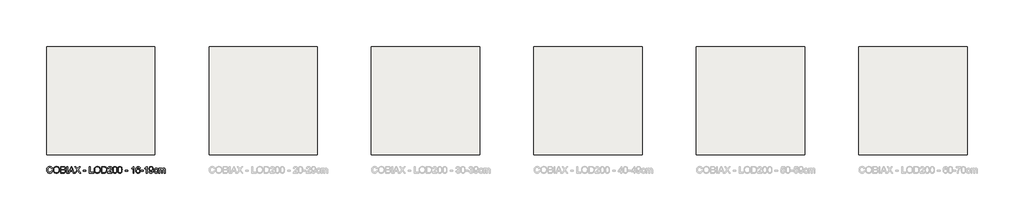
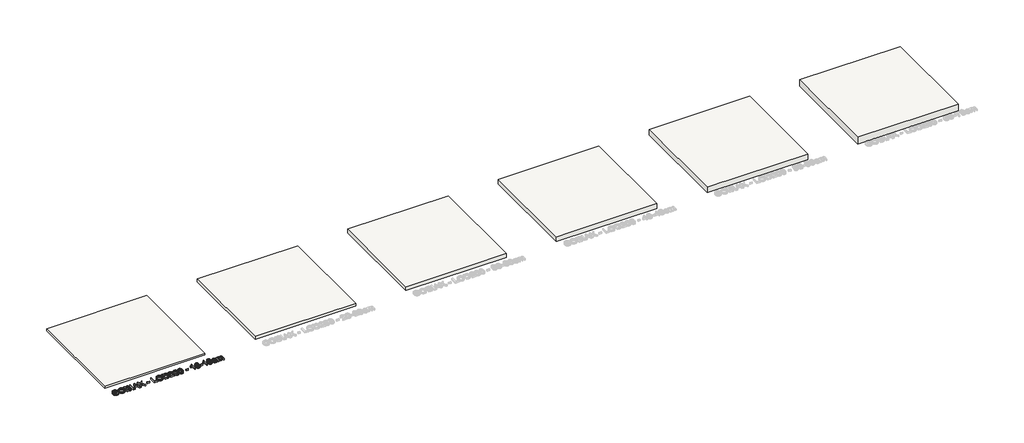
# One storey, part 1 of 6: 6 slabs, 1 proxy.
"""IFC4 building model written with IfcOpenShell, lengths in millimetres."""

from ifc_helpers import new_model, si_unit, frame, origin, origin_with_axes, place, context, project, spatial, polyline, outline, extrude, element, save

model = new_model("IFC4")

# Units and contexts
model_context = context("Model", 3, world=origin())
ifc_project = project(units=[si_unit("LENGTHUNIT", "METRE", prefix="MILLI")], contexts=[model_context])

# Site, building, storey
site = spatial("IfcSite", under=ifc_project)
building = spatial("IfcBuilding", under=site)
storey = spatial("IfcBuildingStorey", under=building, Name="COBIAX Slabs", Elevation=0.0)

# Proxy
placement = place(None, origin())
element("IfcBuildingElementProxy", 1, Name="600mm Arial", ObjectType="600mm Arial", at=placement, inside=storey, context=model_context, shape_type="SweptSolid", body=[
    extrude(outline(polyline([(-20201.7846047, -6620.9127725), (-20126.4423721, -6640.3369419), (-20141.35079, -6687.1913125), (-20161.2072206, -6728.13198), (-20186.0116642, -6763.1589445), (-20215.7641205, -6792.2722059), (-20249.7932051, -6815.1590645), (-20287.4275332, -6831.5068207), (-20328.6671048, -6841.3154744), (-20373.5119201, -6844.5850256), (-20419.4557827, -6842.1110192), (-20460.902288, -6834.6889999), (-20497.8514359, -6822.3189678), (-20530.3032264, -6805.0009229), (-20558.7037164, -6782.9923826), (-20583.4989629, -6756.5508642), (-20604.6889658, -6725.6763677), (-20622.2737252, -6690.3688932), (-20636.0830956, -6652.155151), (-20645.9469316, -6612.5618512), (-20651.8652332, -6571.588994), (-20653.8380004, -6529.2365793), (-20651.6077158, -6483.7939559), (-20644.916862, -6441.3495707), (-20633.765439, -6401.9034238), (-20618.1534469, -6365.4555151), (-20598.4303734, -6332.6082514), (-20574.9457065, -6303.9640396), (-20547.6994462, -6279.5228795), (-20516.6915926, -6259.2847713), (-20482.9752077, -6243.4152617), (-20447.6033539, -6232.0798977), (-20410.5760311, -6225.2786793), (-20371.8932393, -6223.0116065), (-20328.8004621, -6225.9454655), (-20289.2853373, -6234.7470422), (-20253.3478649, -6249.4163368), (-20220.9880449, -6269.9533491), (-20192.7393062, -6295.8154534), (-20169.1350776, -6326.4600236), (-20150.1753593, -6361.8870597), (-20135.8601512, -6402.0965618), (-20211.2023838, -6420.0492032), (-20223.0665781, -6390.420907), (-20237.3220054, -6365.1060272), (-20253.9686657, -6344.1045638), (-20273.006559, -6327.4165168), (-20294.5460498, -6314.7015953), (-20318.6975028, -6305.6195086), (-20345.4609179, -6300.1702565), (-20374.8362952, -6298.3538392), (-20408.6354535, -6300.3679931), (-20439.5467382, -6306.4104549), (-20467.5701492, -6316.4812245), (-20492.7056865, -6330.5803019), (-20514.6360519, -6348.0730908), (-20533.0439473, -6368.3249946), (-20547.9293725, -6391.3360134), (-20559.2923276, -6417.1061472), (-20573.6949077, -6472.2516583), (-20578.4957678, -6529.0894265), (-20572.8119909, -6598.6927), (-20565.7072699, -6629.9626696), (-20555.7606605, -6658.8781944), (-20542.8112142, -6684.8644589), (-20526.6979829, -6707.3466473), (-20507.4209663, -6726.3247597), (-20484.9801646, -6741.7987961), (-20460.4654281, -6753.8055448), (-20434.9666074, -6762.3817938), (-20408.4837022, -6767.5275432), (-20381.0167128, -6769.242793), (-20348.2614196, -6766.9067423), (-20318.1272857, -6759.8985903), (-20290.614311, -6748.218337), (-20265.7224955, -6731.8659823), (-20244.0404504, -6710.9151027), (-20226.1567869, -6685.4392745), (-20212.071505, -6655.4384978), (-20201.7846047, -6620.9127725)])), origin_with_axes(), (0.0, 0.0, 1.0), 150.0),
    extrude(outline(polyline([(-20051.1001395, -6541.7445672), (-20046.0785503, -6471.0468447), (-20031.0137825, -6408.4609203), (-20005.9058364, -6353.9867939), (-19989.5856714, -6329.7916549), (-19970.7547117, -6307.6244654), (-19927.6665331, -6270.6063397), (-19878.7474247, -6244.1648213), (-19823.9973868, -6228.2999102), (-19763.4164193, -6223.0116065), (-19722.8666263, -6225.49481), (-19684.3585785, -6232.9444204), (-19647.8922757, -6245.3604378), (-19613.467718, -6262.742862), (-19582.0505956, -6284.5674614), (-19554.6065988, -6310.310004), (-19531.1357275, -6339.9704899), (-19511.6379818, -6373.548919), (-19496.3156967, -6410.2819362), (-19485.3712073, -6449.4061864), (-19478.8045137, -6490.9216695), (-19476.6156158, -6534.8283857), (-19478.9194768, -6579.3145159), (-19485.8310598, -6621.3910191), (-19497.3503648, -6661.0578953), (-19513.4773917, -6698.3151443), (-19533.8304631, -6732.178682), (-19558.0279014, -6761.6644239), (-19586.0697064, -6786.7723701), (-19617.9558784, -6807.5025205), (-19652.4310198, -6823.7261165), (-19688.2397335, -6835.3143993), (-19725.3820195, -6842.267369), (-19763.8578777, -6844.5850256), (-19805.1158434, -6842.0236472), (-19844.129729, -6834.339512), (-19880.8995344, -6821.5326201), (-19915.4252597, -6803.6029713), (-19946.8055939, -6781.2449431), (-19974.1392261, -6755.1529126), (-19997.4261564, -6725.3268798), (-20016.6663847, -6691.7668448), (-20031.7311524, -6655.8201753), (-20042.4917008, -6618.8342393), (-20048.9480298, -6580.8090365), (-20051.1001395, -6541.7445672)]), holes=[polyline([(-19975.7579069, -6542.4803312), (-19971.9917149, -6592.4295091), (-19960.6931392, -6636.7684865), (-19941.8621795, -6675.4972636), (-19915.4988361, -6708.6158402), (-19883.4517158, -6735.140132), (-19847.5694257, -6754.0860548), (-19807.8519657, -6765.4536084), (-19764.299336, -6769.242793), (-19720.0017453, -6765.4168202), (-19679.8152359, -6753.938902), (-19643.7398077, -6734.8090382), (-19611.7754608, -6708.027229), (-19585.6052554, -6674.2096766), (-19566.9122515, -6633.9725834), (-19555.6964492, -6587.3159493), (-19551.9578484, -6534.2397745), (-19553.5581351, -6499.7600345), (-19558.3589951, -6467.5427687), (-19566.3604285, -6437.5879773), (-19577.5624353, -6409.8956601), (-19591.8408552, -6384.8291007), (-19609.0715282, -6362.7515824), (-19629.2544541, -6343.6631054), (-19652.3896331, -6327.5636696), (-19677.7596952, -6314.7843688), (-19704.6472705, -6305.6562968), (-19733.0523591, -6300.1794536), (-19762.9749609, -6298.3538392), (-19805.0146759, -6301.8717107), (-19844.0193644, -6312.4253255), (-19879.9890265, -6330.0146834), (-19912.9236621, -6354.6397844), (-19940.4136442, -6387.4870481), (-19960.0493457, -6429.7428937), (-19971.8307666, -6481.4073214), (-19975.7579069, -6542.4803312)])]), origin_with_axes(), (0.0, 0.0, 1.0), 150.0),
    extrude(outline(polyline([(-19373.020046, -6835.1672465), (-19373.020046, -6232.4293856), (-19143.0202226, -6232.4293856), (-19079.7629135, -6236.8623637), (-19030.3747557, -6250.1612978), (-19010.2975958, -6260.2182718), (-18992.5196984, -6272.6572818), (-18977.0410634, -6287.4783277), (-18963.8616909, -6304.6814095), (-18945.8170791, -6342.3525258), (-18939.8022085, -6381.7894757), (-18944.8605859, -6418.0810345), (-18960.0357182, -6452.2020895), (-18985.43797, -6482.0557135), (-19021.1777058, -6505.5449788), (-18998.438, -6515.2386694), (-18978.4850002, -6527.8386278), (-18961.3187066, -6543.3448538), (-18946.9391192, -6561.7573477), (-18935.576164, -6582.5150893), (-18927.4597675, -6605.0570585), (-18922.5899296, -6629.3832555), (-18920.9666503, -6655.4936801), (-18925.3996283, -6697.524198), (-18938.6985625, -6736.5012954), (-18958.5457961, -6769.6474632), (-18982.6236727, -6794.1851923), (-19012.1094146, -6811.9538926), (-19048.1802442, -6824.7929743), (-19092.013384, -6832.5736785), (-19144.7860562, -6835.1672465), (-19373.020046, -6835.1672465)]), holes=[polyline([(-19297.6778134, -6477.2916416), (-19160.0899472, -6477.2916416), (-19111.9709822, -6475.6729608), (-19079.7445194, -6470.8169185), (-19051.6199409, -6459.6516999), (-19031.4048253, -6442.9314633), (-19019.2095371, -6420.9137259), (-19015.1444411, -6393.8560051), (-19018.9336256, -6367.5892307), (-19030.3011793, -6344.7069706), (-19048.7320672, -6326.8462997), (-19073.7112547, -6315.6442929), (-19112.0445586, -6309.7397869), (-19170.5377958, -6307.7716182), (-19297.6778134, -6307.7716182), (-19297.6778134, -6477.2916416)]), polyline([(-19297.6778134, -6759.8250139), (-19143.1673754, -6759.8250139), (-19087.2493121, -6756.8819579), (-19061.2952374, -6750.3520525), (-19039.9396875, -6740.474421), (-19022.5756574, -6726.3293582), (-19008.5961416, -6706.9971594), (-18999.3806976, -6683.3423471), (-18996.3088829, -6656.2294441), (-18999.9141265, -6624.7387453), (-19010.7298571, -6597.6626304), (-19029.6205976, -6576.4910216), (-19057.4508705, -6562.7138409), (-19096.8694263, -6555.1538659), (-19150.5250153, -6552.6338742), (-19297.6778134, -6552.6338742), (-19297.6778134, -6759.8250139)])]), origin_with_axes(), (0.0, 0.0, 1.0), 150.0),
    extrude(outline(polyline([(-18807.9533014, -6835.1672465), (-18807.9533014, -6232.4293856), (-18732.6110688, -6232.4293856), (-18732.6110688, -6835.1672465), (-18807.9533014, -6835.1672465)])), origin_with_axes(), (0.0, 0.0, 1.0), 150.0),
    extrude(outline(polyline([(-18652.1184882, -6835.1672465), (-18411.5236634, -6232.4293856), (-18347.3650434, -6232.4293856), (-18106.7702186, -6835.1672465), (-18186.3798823, -6835.1672465), (-18255.3945446, -6646.811665), (-18503.641315, -6646.811665), (-18572.5088245, -6835.1672465), (-18652.1184882, -6835.1672465)]), holes=[polyline([(-18475.9765889, -6571.4694324), (-18282.9121179, -6571.4694324), (-18337.2115004, -6423.2865647), (-18379.4443534, -6307.7716182), (-18416.9683169, -6410.3371185), (-18475.9765889, -6571.4694324)])]), origin_with_axes(), (0.0, 0.0, 1.0), 150.0),
    extrude(outline(polyline([(-18092.2020916, -6835.1672465), (-17859.8478234, -6506.7222012), (-18054.5309753, -6232.4293856), (-17964.1791572, -6232.4293856), (-17854.5503227, -6386.7926708), (-17828.3939128, -6425.8985269), (-17817.6149704, -6446.9781652), (-17774.3520477, -6385.7626012), (-17665.9004356, -6232.4293856), (-17574.2242424, -6232.4293856), (-17768.9073942, -6507.605118), (-17536.5531261, -6835.1672465), (-17626.9049441, -6835.1672465), (-17781.7096876, -6616.7924942), (-17813.9361504, -6571.4694324), (-17849.3999748, -6621.2070781), (-18000.5258984, -6835.1672465), (-18092.2020916, -6835.1672465)])), origin_with_axes(), (0.0, 0.0, 1.0), 150.0),
    extrude(outline(polyline([(-17272.8553119, -6656.2294441), (-17272.8553119, -6580.8872115), (-17037.410835, -6580.8872115), (-17037.410835, -6656.2294441), (-17272.8553119, -6656.2294441)])), origin_with_axes(), (0.0, 0.0, 1.0), 150.0),
    extrude(outline(polyline([(-16707.7885673, -6835.1672465), (-16707.7885673, -6232.4293856), (-16632.4463347, -6232.4293856), (-16632.4463347, -6759.8250139), (-16331.0774043, -6759.8250139), (-16331.0774043, -6835.1672465), (-16707.7885673, -6835.1672465)])), origin_with_axes(), (0.0, 0.0, 1.0), 150.0),
    extrude(outline(polyline([(-16274.5707298, -6541.7445672), (-16269.5491406, -6471.0468447), (-16254.4843729, -6408.4609203), (-16229.3764267, -6353.9867939), (-16213.0562617, -6329.7916549), (-16194.2253021, -6307.6244654), (-16151.1371234, -6270.6063397), (-16102.2180151, -6244.1648213), (-16047.4679771, -6228.2999102), (-15986.8870096, -6223.0116065), (-15946.3372167, -6225.49481), (-15907.8291688, -6232.9444204), (-15871.362866, -6245.3604378), (-15836.9383083, -6262.742862), (-15805.5211859, -6284.5674614), (-15778.0771891, -6310.310004), (-15754.6063178, -6339.9704899), (-15735.1085721, -6373.548919), (-15719.786287, -6410.2819362), (-15708.8417976, -6449.4061864), (-15702.275104, -6490.9216695), (-15700.0862061, -6534.8283857), (-15702.3900671, -6579.3145159), (-15709.3016501, -6621.3910191), (-15720.8209551, -6661.0578953), (-15736.947982, -6698.3151443), (-15757.3010534, -6732.178682), (-15781.4984917, -6761.6644239), (-15809.5402967, -6786.7723701), (-15841.4264687, -6807.5025205), (-15875.9016102, -6823.7261165), (-15911.7103239, -6835.3143993), (-15948.8526098, -6842.267369), (-15987.328468, -6844.5850256), (-16028.5864337, -6842.0236472), (-16067.6003193, -6834.339512), (-16104.3701247, -6821.5326201), (-16138.89585, -6803.6029713), (-16170.2761842, -6781.2449431), (-16197.6098164, -6755.1529126), (-16220.8967467, -6725.3268798), (-16240.1369751, -6691.7668448), (-16255.2017428, -6655.8201753), (-16265.9622911, -6618.8342393), (-16272.4186201, -6580.8090365), (-16274.5707298, -6541.7445672)]), holes=[polyline([(-16199.2284972, -6542.4803312), (-16195.4623053, -6592.4295091), (-16184.1637295, -6636.7684865), (-16165.3327699, -6675.4972636), (-16138.9694264, -6708.6158402), (-16106.9223061, -6735.140132), (-16071.040016, -6754.0860548), (-16031.3225561, -6765.4536084), (-15987.7699264, -6769.242793), (-15943.4723356, -6765.4168202), (-15903.2858262, -6753.938902), (-15867.210398, -6734.8090382), (-15835.2460512, -6708.027229), (-15809.0758457, -6674.2096766), (-15790.3828418, -6633.9725834), (-15779.1670395, -6587.3159493), (-15775.4284387, -6534.2397745), (-15777.0287254, -6499.7600345), (-15781.8295855, -6467.5427687), (-15789.8310189, -6437.5879773), (-15801.0330256, -6409.8956601), (-15815.3114455, -6384.8291007), (-15832.5421185, -6362.7515824), (-15852.7250445, -6343.6631054), (-15875.8602234, -6327.5636696), (-15901.2302855, -6314.7843688), (-15928.1178608, -6305.6562968), (-15956.5229494, -6300.1794536), (-15986.4455512, -6298.3538392), (-16028.4852662, -6301.8717107), (-16067.4899547, -6312.4253255), (-16103.4596168, -6330.0146834), (-16136.3942524, -6354.6397844), (-16163.8842345, -6387.4870481), (-16183.519936, -6429.7428937), (-16195.3013569, -6481.4073214), (-16199.2284972, -6542.4803312)])]), origin_with_axes(), (0.0, 0.0, 1.0), 150.0),
    extrude(outline(polyline([(-15596.4906363, -6835.1672465), (-15596.4906363, -6232.4293856), (-15388.5637326, -6232.4293856), (-15326.4284636, -6234.5998894), (-15280.9950372, -6241.1114007), (-15232.9496487, -6257.8500315), (-15192.4090528, -6284.2271705), (-15170.0694186, -6305.7850555), (-15150.7280227, -6330.1388435), (-15134.3848651, -6357.2885348), (-15121.0399457, -6387.2341292), (-15110.6748705, -6419.6997153), (-15103.2712454, -6454.4093815), (-15097.3483452, -6530.5609545), (-15101.358259, -6595.2530034), (-15113.3880002, -6652.1827421), (-15131.7085236, -6700.651195), (-15154.5907837, -6739.9593862), (-15180.9311345, -6770.9902325), (-15209.6259302, -6794.6266507), (-15242.5697628, -6812.1562277), (-15281.6572248, -6824.8665507), (-15326.9618925, -6832.5920726), (-15378.5573423, -6835.1672465), (-15596.4906363, -6835.1672465)]), holes=[polyline([(-15521.1484037, -6759.8250139), (-15387.8279686, -6759.8250139), (-15332.6824575, -6757.1026871), (-15290.8542747, -6748.9357069), (-15259.2899995, -6735.8023196), (-15234.9362114, -6718.1807721), (-15208.7614075, -6685.5680332), (-15189.0981148, -6643.3535742), (-15176.7924621, -6591.3534542), (-15172.6905778, -6529.3837321), (-15174.7001332, -6485.6425629), (-15180.7287994, -6447.2724708), (-15190.7765764, -6414.2734558), (-15204.8434642, -6386.645518), (-15221.7890286, -6363.7632579), (-15240.4728355, -6345.0012761), (-15260.8948847, -6330.3595727), (-15283.0551764, -6319.8381477), (-15326.3916754, -6310.7882506), (-15389.8881078, -6307.7716182), (-15521.1484037, -6307.7716182), (-15521.1484037, -6759.8250139)])]), origin_with_axes(), (0.0, 0.0, 1.0), 150.0),
    extrude(outline(polyline([(-14635.8771705, -6759.8250139), (-14635.8771705, -6835.1672465), (-15031.4238917, -6835.1672465), (-15029.7684227, -6808.6429547), (-15023.3304878, -6783.2223088), (-15004.752447, -6742.6265306), (-14977.5659676, -6703.2447631), (-14938.2393823, -6662.0235855), (-14883.241024, -6615.9095774), (-14801.9391031, -6543.6943417), (-14753.1579505, -6490.3882406), (-14738.9301144, -6468.6096265), (-14728.7673743, -6447.125318), (-14722.6697302, -6425.9353151), (-14720.6371822, -6405.0396178), (-14722.5547671, -6385.3809236), (-14728.3075218, -6367.3133192), (-14737.8954463, -6350.8368043), (-14751.3185406, -6335.9513791), (-14767.8318436, -6323.6227337), (-14786.6903944, -6314.8165584), (-14807.8941929, -6309.5328533), (-14831.4432391, -6307.7716182), (-14856.2522812, -6309.4914666), (-14878.440164, -6314.6510115), (-14898.0068876, -6323.2502532), (-14914.952452, -6335.2891915), (-14928.6606549, -6350.3631562), (-14938.5152938, -6368.0674772), (-14944.5163689, -6388.4021545), (-14946.66388, -6411.3671881), (-15022.0061126, -6401.949409), (-15015.526791, -6363.0550851), (-15003.7407716, -6329.0719858), (-14986.6480544, -6300.0001111), (-14964.2486394, -6275.8394611), (-14937.0575614, -6256.8475531), (-14905.5898552, -6243.2819045), (-14869.8455209, -6235.1425153), (-14829.8245583, -6232.4293856), (-14789.4449108, -6235.446018), (-14753.5074384, -6244.4959151), (-14722.0121411, -6259.5790769), (-14694.9590189, -6280.6955034), (-14673.2309886, -6306.2816962), (-14657.7109669, -6334.7741567), (-14648.3989539, -6366.172885), (-14645.2949496, -6400.477881), (-14648.6426757, -6436.5119224), (-14658.6858542, -6471.9205645), (-14676.5097369, -6507.9362118), (-14703.1995756, -6545.7912691), (-14745.7451283, -6590.9855722), (-14811.136153, -6649.018957), (-14897.809151, -6721.49171), (-14931.8014474, -6759.8250139), (-14635.8771705, -6759.8250139)])), origin_with_axes(), (0.0, 0.0, 1.0), 150.0),
    extrude(outline(polyline([(-14560.5349379, -6538.6543584), (-14554.9983138, -6442.1773052), (-14548.0775338, -6401.2642288), (-14538.3884418, -6365.2347859), (-14525.9724244, -6333.7946709), (-14510.8708685, -6306.6495782), (-14493.0837741, -6283.7995077), (-14472.611141, -6265.2444596), (-14449.3839916, -6250.8878647), (-14423.3333478, -6240.6331541), (-14394.4592097, -6234.4803277), (-14362.7615773, -6232.4293856), (-14316.3348695, -6237.285428), (-14274.764204, -6251.853555), (-14239.9993555, -6275.5635496), (-14213.9900984, -6307.8451946), (-14194.3451999, -6348.4225787), (-14178.6734269, -6397.0197903), (-14168.4095192, -6458.731995), (-14164.9882167, -6538.6543584), (-14170.4696584, -6634.5795887), (-14177.3214605, -6675.3547093), (-14186.9139836, -6711.3381669), (-14199.2334319, -6742.7920775), (-14214.2660099, -6769.978557), (-14232.0117177, -6792.8976053), (-14252.4705551, -6811.5492224), (-14275.7252957, -6826.0023863), (-14301.858713, -6836.3260748), (-14330.8708068, -6842.5202879), (-14362.7615773, -6844.5850256), (-14404.2586663, -6840.9981761), (-14441.0468658, -6830.2376278), (-14473.1261758, -6812.3033805), (-14500.4965963, -6787.1954344), (-14526.7633707, -6741.8079932), (-14545.5253525, -6685.2553335), (-14556.7825415, -6617.5374552), (-14560.5349379, -6538.6543584)]), holes=[polyline([(-14485.1927053, -6538.5072056), (-14482.9854133, -6604.0039963), (-14476.3635374, -6657.0203904), (-14465.3270775, -6697.5563877), (-14449.8760337, -6725.6119884), (-14431.1876284, -6744.7004654), (-14410.4390838, -6758.3350918), (-14387.6304001, -6766.5158677), (-14362.7615773, -6769.242793), (-14337.8927544, -6766.5066706), (-14315.0840707, -6758.2983036), (-14294.3355262, -6744.6176919), (-14275.6471208, -6725.4648356), (-14260.196077, -6697.3632497), (-14249.1596172, -6656.8364494), (-14242.5377412, -6603.8844347), (-14240.3304493, -6538.5072056), (-14242.4641648, -6474.7440588), (-14248.8653116, -6422.6611653), (-14259.5338894, -6382.2585252), (-14274.4698984, -6353.5361384), (-14292.8456041, -6333.5141608), (-14313.8332719, -6319.2127483), (-14337.4329019, -6310.6319007), (-14363.6444941, -6307.7716182), (-14388.3845582, -6310.2916099), (-14410.8069658, -6317.8515849), (-14430.9117169, -6330.4515432), (-14448.6988113, -6348.0914849), (-14464.6648899, -6379.3614545), (-14476.0692318, -6421.5207311), (-14482.9118369, -6474.5693149), (-14485.1927053, -6538.5072056)])]), origin_with_axes(), (0.0, 0.0, 1.0), 150.0),
    extrude(outline(polyline([(-14099.0637631, -6538.6543584), (-14093.5271391, -6442.1773052), (-14086.6063591, -6401.2642288), (-14076.917267, -6365.2347859), (-14064.5012497, -6333.7946709), (-14049.3996938, -6306.6495782), (-14031.6125993, -6283.7995077), (-14011.1399663, -6265.2444596), (-13987.9128168, -6250.8878647), (-13961.862173, -6240.6331541), (-13932.9880349, -6234.4803277), (-13901.2904025, -6232.4293856), (-13854.8636947, -6237.285428), (-13813.2930293, -6251.853555), (-13778.5281807, -6275.5635496), (-13752.5189237, -6307.8451946), (-13732.8740251, -6348.4225787), (-13717.2022521, -6397.0197903), (-13706.9383445, -6458.731995), (-13703.5170419, -6538.6543584), (-13708.9984836, -6634.5795887), (-13715.8502858, -6675.3547093), (-13725.4428088, -6711.3381669), (-13737.7622571, -6742.7920775), (-13752.7948352, -6769.978557), (-13770.5405429, -6792.8976053), (-13790.9993804, -6811.5492224), (-13814.254121, -6826.0023863), (-13840.3875382, -6836.3260748), (-13869.3996321, -6842.5202879), (-13901.2904025, -6844.5850256), (-13942.7874916, -6840.9981761), (-13979.5756911, -6830.2376278), (-14011.6550011, -6812.3033805), (-14039.0254215, -6787.1954344), (-14065.292196, -6741.8079932), (-14084.0541777, -6685.2553335), (-14095.3113668, -6617.5374552), (-14099.0637631, -6538.6543584)]), holes=[polyline([(-14023.7215305, -6538.5072056), (-14021.5142385, -6604.0039963), (-14014.8923626, -6657.0203904), (-14003.8559028, -6697.5563877), (-13988.404859, -6725.6119884), (-13969.7164536, -6744.7004654), (-13948.9679091, -6758.3350918), (-13926.1592254, -6766.5158677), (-13901.2904025, -6769.242793), (-13876.4215796, -6766.5066706), (-13853.6128959, -6758.2983036), (-13832.8643514, -6744.6176919), (-13814.1759461, -6725.4648356), (-13798.7249023, -6697.3632497), (-13787.6884424, -6656.8364494), (-13781.0665665, -6603.8844347), (-13778.8592745, -6538.5072056), (-13780.9929901, -6474.7440588), (-13787.3941368, -6422.6611653), (-13798.0627147, -6382.2585252), (-13812.9987237, -6353.5361384), (-13831.3744293, -6333.5141608), (-13852.3620972, -6319.2127483), (-13875.9617271, -6310.6319007), (-13902.1733193, -6307.7716182), (-13926.9133835, -6310.2916099), (-13949.3357911, -6317.8515849), (-13969.4405421, -6330.4515432), (-13987.2276366, -6348.0914849), (-14003.1937152, -6379.3614545), (-14014.598057, -6421.5207311), (-14021.4406621, -6474.5693149), (-14023.7215305, -6538.5072056)])]), origin_with_axes(), (0.0, 0.0, 1.0), 150.0),
    extrude(outline(polyline([(-13420.9836696, -6656.2294441), (-13420.9836696, -6580.8872115), (-13185.5391927, -6580.8872115), (-13185.5391927, -6656.2294441), (-13420.9836696, -6656.2294441)])), origin_with_axes(), (0.0, 0.0, 1.0), 150.0),
    extrude(outline(polyline([(-12601.63689, -6835.1672465), (-12676.9791226, -6835.1672465), (-12676.9791226, -6365.4555151), (-12708.4330332, -6390.894555), (-12748.3482296, -6416.2968068), (-12790.2499889, -6438.4984852), (-12827.6635878, -6454.3358051), (-12827.6635878, -6383.1138508), (-12768.4897689, -6350.9241763), (-12717.2254128, -6312.6276606), (-12676.8135757, -6271.9031237), (-12650.1973133, -6232.4293856), (-12601.63689, -6232.4293856), (-12601.63689, -6835.1672465)])), origin_with_axes(), (0.0, 0.0, 1.0), 150.0),
    extrude(outline(polyline([(-12036.5701454, -6392.5316299), (-12111.912378, -6401.949409), (-12124.0524838, -6364.6093865), (-12140.4600208, -6339.1151642), (-12156.6560256, -6325.4023629), (-12174.6362582, -6315.6075047), (-12194.4007183, -6309.7305899), (-12215.9494062, -6307.7716182), (-12250.9717722, -6312.333355), (-12283.9339989, -6326.0185652), (-12312.2425184, -6354.8421195), (-12335.3639018, -6394.5181927), (-12344.4000034, -6419.8238754), (-12350.9804925, -6450.6385911), (-12356.774634, -6528.7951209), (-12326.5531281, -6493.5336317), (-12290.3351456, -6468.6832029), (-12250.1440377, -6453.949529), (-12208.0031551, -6449.0383044), (-12171.8035668, -6452.3952276), (-12138.3998816, -6462.4659972), (-12107.7920996, -6479.2506132), (-12079.9802208, -6502.7490757), (-12056.8680344, -6531.563433), (-12040.3593299, -6564.2957335), (-12030.4541072, -6600.9459772), (-12027.1523663, -6641.5141643), (-12028.7066677, -6668.9811537), (-12033.369572, -6695.4640589), (-12041.1410792, -6720.9628796), (-12052.0211892, -6745.4776161), (-12065.6236259, -6768.0931618), (-12081.5621134, -6787.8944101), (-12099.8366515, -6804.8813613), (-12120.4472403, -6819.0540151), (-12142.9524213, -6830.2238322), (-12166.9107363, -6838.202273), (-12192.3221851, -6842.9893374), (-12219.1867678, -6844.5850256), (-12264.1005609, -6840.3543827), (-12304.6641493, -6827.6624538), (-12340.8775332, -6806.5092391), (-12372.7407126, -6776.8947385), (-12398.7177799, -6737.5681532), (-12417.2728281, -6687.2786845), (-12428.4058569, -6626.0263323), (-12432.1168666, -6553.8110966), (-12427.9965882, -6472.8494665), (-12415.6357532, -6403.7520308), (-12395.0343615, -6346.5187894), (-12381.6434568, -6322.3512416), (-12366.192413, -6301.1497423), (-12334.9316405, -6271.0845863), (-12298.6860669, -6249.6094748), (-12257.4556923, -6236.7244079), (-12211.2405167, -6232.4293856), (-12176.5400475, -6235.087333), (-12145.1321221, -6243.0611753), (-12117.0167407, -6256.3509124), (-12092.193903, -6274.9565443), (-12071.3349939, -6298.2526716), (-12055.1113979, -6325.613895), (-12043.5231151, -6357.0402144), (-12036.5701454, -6392.5316299)]), holes=[polyline([(-12356.774634, -6640.3369419), (-12352.4152323, -6673.7222329), (-12339.3370274, -6705.5992078), (-12319.0299413, -6733.0064165), (-12292.983896, -6752.9824088), (-12261.5483795, -6765.1776969), (-12225.0728797, -6769.242793), (-12198.8842802, -6767.1366686), (-12175.353628, -6760.8182953), (-12154.4809233, -6750.2876732), (-12136.2661661, -6735.5448022), (-12121.4911054, -6717.1874907), (-12110.9374907, -6695.8135467), (-12104.6053218, -6671.4229705), (-12102.4945989, -6644.0157618), (-12104.5777307, -6617.6800095), (-12110.8271261, -6594.2965102), (-12121.2427851, -6573.8652639), (-12135.8247077, -6556.3862706), (-12154.0946472, -6542.3837621), (-12175.5743572, -6532.3819704), (-12200.2638376, -6526.3808953), (-12228.1630885, -6524.380537), (-12254.0022001, -6526.3808953), (-12277.8087637, -6532.3819704), (-12299.5827793, -6542.3837621), (-12319.3242469, -6556.3862706), (-12335.7087912, -6573.6353376), (-12347.4120372, -6593.3768052), (-12354.4339848, -6615.6106733), (-12356.774634, -6640.3369419)])]), origin_with_axes(), (0.0, 0.0, 1.0), 150.0),
    extrude(outline(polyline([(-11980.0634709, -6656.2294441), (-11980.0634709, -6580.8872115), (-11744.618994, -6580.8872115), (-11744.618994, -6656.2294441), (-11980.0634709, -6656.2294441)])), origin_with_axes(), (0.0, 0.0, 1.0), 150.0),
    extrude(outline(polyline([(-11396.1611682, -6835.1672465), (-11471.5034008, -6835.1672465), (-11471.5034008, -6365.4555151), (-11502.9573114, -6390.894555), (-11542.8725078, -6416.2968068), (-11584.7742671, -6438.4984852), (-11622.187866, -6454.3358051), (-11622.187866, -6383.1138508), (-11563.0140471, -6350.9241763), (-11511.749691, -6312.6276606), (-11471.3378539, -6271.9031237), (-11444.7215915, -6232.4293856), (-11396.1611682, -6232.4293856), (-11396.1611682, -6835.1672465)])), origin_with_axes(), (0.0, 0.0, 1.0), 150.0),
    extrude(outline(polyline([(-11207.8055866, -6684.4827813), (-11132.463354, -6675.0650022), (-11119.5874842, -6717.8312842), (-11110.1145228, -6734.0962669), (-11098.6182105, -6746.9491441), (-11085.2273058, -6756.7026155), (-11070.0705676, -6763.6693808), (-11034.4595905, -6769.242793), (-11002.5090392, -6765.6559435), (-10973.4647557, -6754.8953952), (-10949.3316968, -6738.1383703), (-10932.1148194, -6716.5620913), (-10919.0734027, -6688.1983894), (-10907.4667258, -6651.0790961), (-10899.2997455, -6608.4783611), (-10896.5774187, -6563.6703341), (-10897.0188771, -6548.9550543), (-10923.1201047, -6580.8136351), (-10957.2779479, -6606.0503399), (-10997.0275975, -6622.4946651), (-11039.904244, -6627.9761068), (-11075.6945636, -6624.6283807), (-11108.6062066, -6614.5852022), (-11138.639173, -6597.8465714), (-11165.7934628, -6574.4124883), (-11188.2940453, -6545.5061606), (-11204.36589, -6512.3507958), (-11214.0089968, -6474.9463939), (-11217.2233657, -6433.292955), (-11213.8526469, -6390.2507616), (-11203.7404906, -6351.6231521), (-11186.8868967, -6317.4101265), (-11163.2918652, -6287.6116849), (-11134.6200622, -6263.469429), (-11102.5361537, -6246.2249604), (-11067.0401397, -6235.8782793), (-11028.1320202, -6232.4293856), (-10999.4050349, -6234.3975543), (-10971.9380454, -6240.3020603), (-10945.7310518, -6250.1429037), (-10920.784054, -6263.9200844), (-10897.929385, -6281.3392969), (-10877.999378, -6302.1062355), (-10860.9940327, -6326.2209003), (-10846.9133494, -6353.6832912), (-10835.872291, -6386.0753009), (-10827.9858207, -6424.9788219), (-10823.2539385, -6470.3938542), (-10821.6766445, -6522.3203978), (-10823.24934, -6576.8543051), (-10827.9674266, -6625.5296916), (-10835.8309043, -6668.3465573), (-10846.839773, -6705.3049022), (-10860.952646, -6737.3060373), (-10878.1281367, -6765.2512733), (-10898.3662449, -6789.1406104), (-10921.6669708, -6808.9740485), (-10947.5612647, -6824.553851), (-10975.5800772, -6835.6822813), (-11005.7234082, -6842.3593395), (-11037.9912577, -6844.5850256), (-11071.8272042, -6841.9592679), (-11102.407395, -6834.0819946), (-11129.7318302, -6820.9532059), (-11153.8005097, -6802.5729018), (-11174.0064283, -6779.4377228), (-11189.7425807, -6752.0443097), (-11201.0089668, -6720.3926626), (-11207.8055866, -6684.4827813)]), holes=[polyline([(-10897.0188771, -6431.5271214), (-10899.0514251, -6404.524583), (-10905.1490692, -6380.4651005), (-10915.3118093, -6359.348674), (-10929.5396455, -6341.1753034), (-10947.1336019, -6326.5611911), (-10967.3947028, -6316.1225395), (-10990.3229481, -6309.8593486), (-11015.9183379, -6307.7716182), (-11042.3322652, -6310.0202969), (-11066.2445949, -6316.766333), (-11087.655327, -6328.0097265), (-11106.5644616, -6343.7504774), (-11122.0155054, -6363.0688806), (-11133.0519652, -6385.0452313), (-11139.6738411, -6409.6795294), (-11141.8811331, -6436.9717749), (-11139.7934028, -6461.4497232), (-11133.5302118, -6483.5272414), (-11123.0915602, -6503.2043297), (-11108.4774479, -6520.4809878), (-11090.2948803, -6534.5478756), (-11069.1508626, -6544.5956526), (-11045.0453949, -6550.6243188), (-11017.9784771, -6552.6338742), (-10992.7371737, -6550.6243188), (-10969.841118, -6544.5956526), (-10949.2903101, -6534.5478756), (-10931.0847499, -6520.4809878), (-10916.1809305, -6502.8640388), (-10905.5353453, -6482.1660781), (-10899.1479941, -6458.3871056), (-10897.0188771, -6431.5271214)])]), origin_with_axes(), (0.0, 0.0, 1.0), 150.0),
    extrude(outline(polyline([(-10454.3832605, -6675.0650022), (-10379.0410279, -6684.4827813), (-10387.2355993, -6720.0339776), (-10400.0470898, -6751.4924867), (-10417.4754993, -6778.8583086), (-10439.5208279, -6802.1314434), (-10465.2541735, -6820.7048856), (-10493.746634, -6833.97163), (-10524.9982095, -6841.9316767), (-10559.0088999, -6844.5850256), (-10601.2647456, -6840.883213), (-10639.1519926, -6829.7777753), (-10672.6706409, -6811.2687124), (-10701.8206905, -6785.3560244), (-10725.4157219, -6752.5271548), (-10742.2693158, -6713.2695474), (-10752.3814722, -6667.5832021), (-10755.752191, -6615.468119), (-10749.9948377, -6548.4216254), (-10742.7981462, -6518.2507033), (-10732.7227781, -6490.3146642), (-10719.6997554, -6465.1745284), (-10703.6601004, -6443.3913158), (-10684.6038131, -6424.9650263), (-10662.5308934, -6409.8956601), (-10638.4392212, -6398.1786186), (-10613.3266765, -6389.8093032), (-10587.1932593, -6384.7877139), (-10560.0389695, -6383.1138508), (-10526.6122917, -6385.4131133), (-10496.3769903, -6392.3109007), (-10469.3330651, -6403.8072131), (-10445.4805162, -6419.9020504), (-10425.2240139, -6440.2275306), (-10408.9682282, -6464.4157718), (-10396.7131592, -6492.4667739), (-10388.458807, -6524.380537), (-10463.8010396, -6533.7983161), (-10477.4678557, -6500.9280598), (-10498.7498291, -6477.365218), (-10526.4697375, -6463.1833671), (-10559.4503583, -6458.4560835), (-10585.0503467, -6460.7829371), (-10608.1395404, -6467.7634979), (-10628.7179395, -6479.397766), (-10646.785544, -6495.6857414), (-10661.4962253, -6517.004503), (-10672.0038548, -6543.7311299), (-10678.3084324, -6575.8656222), (-10680.4099583, -6613.4079798), (-10678.3544177, -6651.515956), (-10672.1877958, -6684.0229288), (-10661.9100925, -6710.9288982), (-10647.521308, -6732.2338643), (-10629.8123884, -6748.4252706), (-10609.5742802, -6759.9905608), (-10586.8069832, -6766.9297349), (-10561.5104975, -6769.242793), (-10522.4966119, -6763.4670457), (-10505.6246239, -6756.2473615), (-10490.5092724, -6746.1398037), (-10477.5736218, -6733.0340076), (-10467.2407362, -6716.8196087), (-10459.5106158, -6697.4966069), (-10454.3832605, -6675.0650022)])), origin_with_axes(), (0.0, 0.0, 1.0), 150.0),
    extrude(outline(polyline([(-10313.1165744, -6835.1672465), (-10313.1165744, -6392.5316299), (-10237.7743417, -6392.5316299), (-10237.7743417, -6465.372265), (-10215.1128108, -6431.9133975), (-10185.9765568, -6405.7018054), (-10151.3588611, -6388.7608395), (-10112.253005, -6383.1138508), (-10070.3512457, -6388.8712041), (-10052.518166, -6396.0678956), (-10036.7636196, -6406.1432637), (-10011.6740675, -6433.7895957), (-9995.2665305, -6470.6697657), (-9967.8041396, -6432.364053), (-9936.4789877, -6405.0028296), (-9901.2910749, -6388.5860955), (-9862.2404011, -6383.1138508), (-9832.078676, -6385.3901207), (-9805.6049679, -6392.2189302), (-9782.8192768, -6403.6002795), (-9763.7216028, -6419.5341684), (-9748.6246454, -6440.204538), (-9737.8411044, -6465.7953293), (-9731.3709798, -6496.3065422), (-9729.2142716, -6531.7381769), (-9729.2142716, -6835.1672465), (-9804.5565042, -6835.1672465), (-9804.5565042, -6564.1117925), (-9806.3039437, -6526.5326467), (-9811.5462621, -6501.2039713), (-9821.3687114, -6483.8583352), (-9836.8565434, -6470.2283073), (-9856.7773534, -6461.3991394), (-9879.8987368, -6458.4560835), (-9901.2496881, -6460.3414787), (-9920.7152442, -6465.9976644), (-9938.295405, -6475.4246405), (-9953.9901707, -6488.6224071), (-9966.8982302, -6505.9772402), (-9976.1182727, -6527.875416), (-9981.6502982, -6554.3169344), (-9983.4943067, -6585.3017954), (-9983.4943067, -6835.1672465), (-10058.8365393, -6835.1672465), (-10058.8365393, -6555.724083), (-10063.1959409, -6513.1233479), (-10068.645193, -6496.4031113), (-10076.2741459, -6482.7362951), (-10086.3863022, -6472.1137025), (-10099.2851647, -6464.5261364), (-10114.9707332, -6459.9735967), (-10133.4430079, -6458.4560835), (-10162.4688973, -6462.5027854), (-10189.2139184, -6474.6428912), (-10211.2868381, -6494.5820954), (-10226.2964235, -6522.0260922), (-10234.9048622, -6560.1018787), (-10237.7743417, -6611.9364518), (-10237.7743417, -6835.1672465), (-10313.1165744, -6835.1672465)])), origin_with_axes(), (0.0, 0.0, 1.0), 150.0),
])

# Slabs
element("IfcSlab", 2, ObjectType="Cobiax_LOD200_H16-19", at=placement, inside=storey, context=model_context, shape_type="SweptSolid", body=[
    extrude(outline(polyline([(-10673.2731895, 4850.2779373), (-10673.2731895, -5149.7220627), (-20673.2731895, -5149.7220627), (-20673.2731895, 4850.2779373), (-10673.2731895, 4850.2779373)])), frame((0.0, 0.0, -190.0), z_axis=(0.0, 0.0, 1.0), x_axis=(1.0, 0.0, 0.0)), (0.0, 0.0, 1.0), 190.0),
])
element("IfcSlab", 3, ObjectType="Cobiax_LOD200_H20-29", at=placement, inside=storey, context=model_context, shape_type="SweptSolid", body=[
    extrude(outline(polyline([(4326.7268105, 4850.2779373), (4326.7268105, -5149.7220627), (-5673.2731895, -5149.7220627), (-5673.2731895, 4850.2779373), (4326.7268105, 4850.2779373)])), frame((0.0, 0.0, -290.0), z_axis=(0.0, 0.0, 1.0), x_axis=(1.0, 0.0, 0.0)), (0.0, 0.0, 1.0), 290.0),
])
element("IfcSlab", 4, ObjectType="Cobiax_LOD200_H30-39", at=placement, inside=storey, context=model_context, shape_type="SweptSolid", body=[
    extrude(outline(polyline([(19326.7268105, 4850.2779373), (19326.7268105, -5149.7220627), (9326.7268105, -5149.7220627), (9326.7268105, 4850.2779373), (19326.7268105, 4850.2779373)])), frame((0.0, 0.0, -390.0), z_axis=(0.0, 0.0, 1.0), x_axis=(1.0, 0.0, 0.0)), (0.0, 0.0, 1.0), 390.0),
])
element("IfcSlab", 5, ObjectType="Cobiax_LOD200_H40-49", at=placement, inside=storey, context=model_context, shape_type="SweptSolid", body=[
    extrude(outline(polyline([(34326.7268105, 4850.2779373), (34326.7268105, -5149.7220627), (24326.7268105, -5149.7220627), (24326.7268105, 4850.2779373), (34326.7268105, 4850.2779373)])), frame((0.0, 0.0, -490.0), z_axis=(0.0, 0.0, 1.0), x_axis=(1.0, 0.0, 0.0)), (0.0, 0.0, 1.0), 490.0),
])
element("IfcSlab", 6, ObjectType="Cobiax_LOD200_H50-59_ECO", at=placement, inside=storey, context=model_context, shape_type="SweptSolid", body=[
    extrude(outline(polyline([(49326.7268105, 4850.2779373), (49326.7268105, -5149.7220627), (39326.7268105, -5149.7220627), (39326.7268105, 4850.2779373), (49326.7268105, 4850.2779373)])), frame((0.0, 0.0, -590.0), z_axis=(0.0, 0.0, 1.0), x_axis=(1.0, 0.0, 0.0)), (0.0, 0.0, 1.0), 590.0),
])
element("IfcSlab", 7, ObjectType="Cobiax_LOD200_H60-70_ECO", at=placement, inside=storey, context=model_context, shape_type="SweptSolid", body=[
    extrude(outline(polyline([(64326.7268105, 4850.2779373), (64326.7268105, -5149.7220627), (54326.7268105, -5149.7220627), (54326.7268105, 4850.2779373), (64326.7268105, 4850.2779373)])), frame((0.0, 0.0, -700.0), z_axis=(0.0, 0.0, 1.0), x_axis=(1.0, 0.0, 0.0)), (0.0, 0.0, 1.0), 700.0),
])

save(model, "model.ifc")
